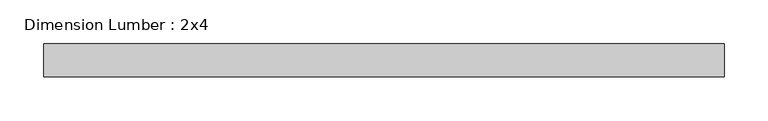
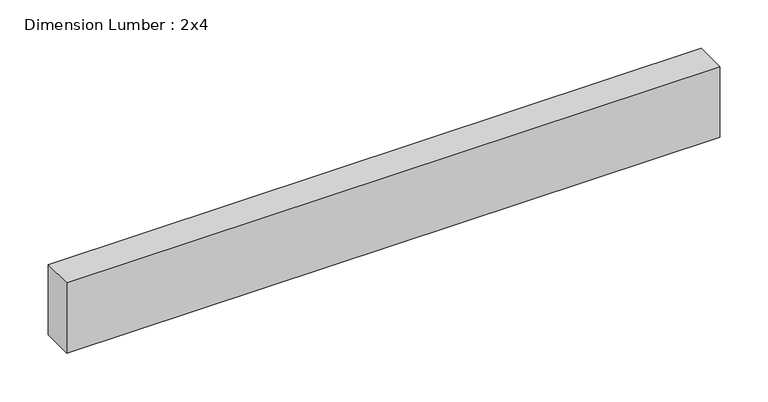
"""IFC4 building model written with IfcOpenShell, lengths in millimetres: beam geometry, Dimension Lumber : 2x4."""

from ifc_helpers import new_model, si_unit, frame, origin, place, context, project, spatial, polyline, outline, extrude, source, transform, mapped, element, save


def dimension_lumber_2x4_17c131d4(model_context):
    return source(origin(), model_context, "Body", "SweptSolid", [
        extrude(outline(polyline([(389.7828334, 19.05), (389.7828334, -19.05), (-389.7828334, -19.05), (-389.7828334, 19.05), (389.7828334, 19.05)])), frame((0.0, 0.0, -44.45), z_axis=(0.0, 0.0, 1.0), x_axis=(1.0, 0.0, 0.0)), (0.0, 0.0, 1.0), 88.9),
    ])


if __name__ == "__main__":
    model = new_model("IFC4")
    model_context = context("Model", 3, world=origin())
    ifc_project = project(units=[si_unit("LENGTHUNIT", "METRE", prefix="MILLI")], contexts=[model_context])
    site = spatial("IfcSite", under=ifc_project)
    building = spatial("IfcBuilding", under=site)
    placement = place(None, origin())
    dimension_lumber_2x4_shape = dimension_lumber_2x4_17c131d4(model_context)
    element("IfcBeam", 1, ObjectType="Dimension Lumber : 2x4", at=placement, inside=building, context=model_context, shape_type="MappedRepresentation", body=[
        mapped(dimension_lumber_2x4_shape, transform((0.0, 0.0, 0.0), x_axis=(1.0, 0.0, 0.0), y_axis=(0.0, 1.0, 0.0), z_axis=(0.0, 0.0, 1.0))),
    ])
    save(model, "model.ifc")
